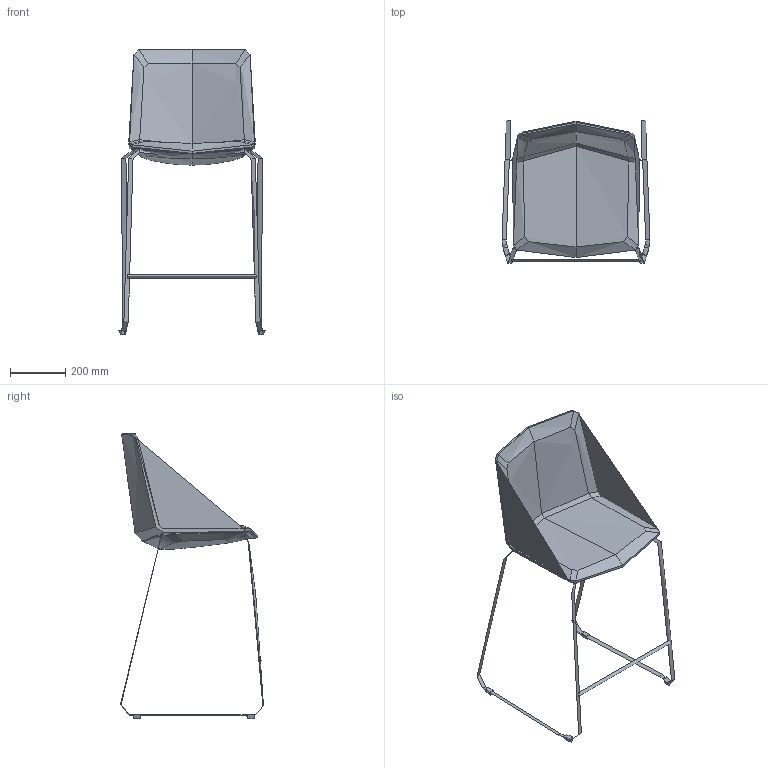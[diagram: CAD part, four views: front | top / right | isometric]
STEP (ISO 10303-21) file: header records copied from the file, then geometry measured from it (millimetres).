
FILE_DESCRIPTION(/* description */ (''),/* implementation_level */ '2;1');
FILE_NAME(/* name */ 'SK038B~1',/* time_stamp */ '2017-09-29T20:41:03+02:00',/* author */ (''),/* organization */ (''),/* preprocessor_version */ 'ST-DEVELOPER v15',/* originating_system */ '',/* authorisation */ '');
FILE_SCHEMA (('CONFIG_CONTROL_DESIGN'));
Length unit declared in the file: millimetre
Products named in the file (1): Document
Bounding box: 534.48 x 516.39 x 1029.5 mm (x, y, z)
Volume: 10510015.6 mm3; surface area: 1181543.6 mm2
Topology: 11 solids, 13 shells, 148 faces, 340 edges, 208 vertices
Faces by surface type: bspline 130, plane 18
Entity records: 16990 total; most frequent: CARTESIAN_POINT 14992, ORIENTED_EDGE 646, EDGE_CURVE 337, VERTEX_POINT 208, ADVANCED_FACE 148, FACE_OUTER_BOUND 148, EDGE_LOOP 148, B_SPLINE_CURVE_WITH_KNOTS 121
